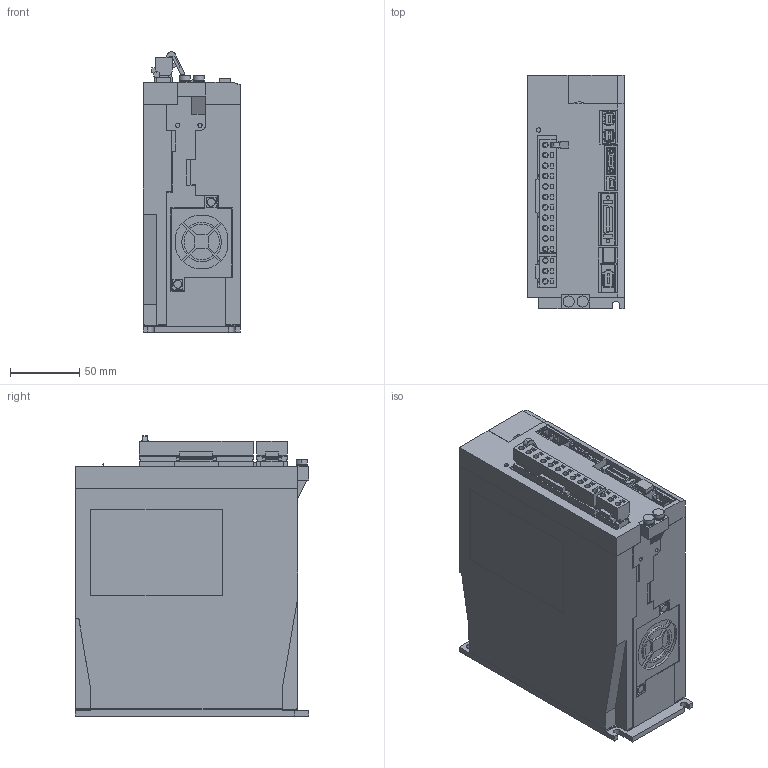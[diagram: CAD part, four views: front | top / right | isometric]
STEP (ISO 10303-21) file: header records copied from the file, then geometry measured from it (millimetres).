
FILE_DESCRIPTION (( 'STEP AP203' ), '1' );
FILE_NAME ('sgd7s_2r8f20a.STEP', '2016-12-09T00:11:01', ( '匠エンジニアリング山之内' ), ( 'TAKUMI-Engniaring' ), 'SwSTEP 2.0', 'SolidWorks 2006303', '' );
FILE_SCHEMA (( 'CONFIG_CONTROL_DESIGN' ));
Products named in the file (9): sgd7s_2r8f20a_connector_2; sgd7s_2r8f20a_pin; sgd7s_2r8f20a; sgd7s_2r8f20a_base; sgd7s_2r8f20a_connector; sgd7s_2r8f20a_connector_1; sgd7s_2r8f20a_cover; sgd7s_2r8f20a_cover2; sgd7s_2r8f20a_connector_3
Assembly tree (9 placements, depth 3):
  sgd7s_2r8f20a
    sgd7s_2r8f20a_cover2  x2
    sgd7s_2r8f20a_base
    sgd7s_2r8f20a_connector_3
    sgd7s_2r8f20a_connector
      sgd7s_2r8f20a_connector_2
      sgd7s_2r8f20a_pin
    sgd7s_2r8f20a_connector_1
    sgd7s_2r8f20a_cover
Bounding box: 70.5 x 168 x 201.83 mm (x, y, z)
Volume: 1987819.2 mm3; surface area: 149618 mm2
Topology: 8 solids, 8 shells, 1840 faces, 4815 edges, 3170 vertices
Faces by surface type: plane 1640, cylinder 195, cone 4, sphere 1
Entity records: 55945 total; most frequent: CARTESIAN_POINT 9727, ORIENTED_EDGE 9522, DIRECTION 8828, EDGE_CURVE 4761, VECTOR 4358, LINE 4358, VERTEX_POINT 3134, AXIS2_PLACEMENT_3D 2235
